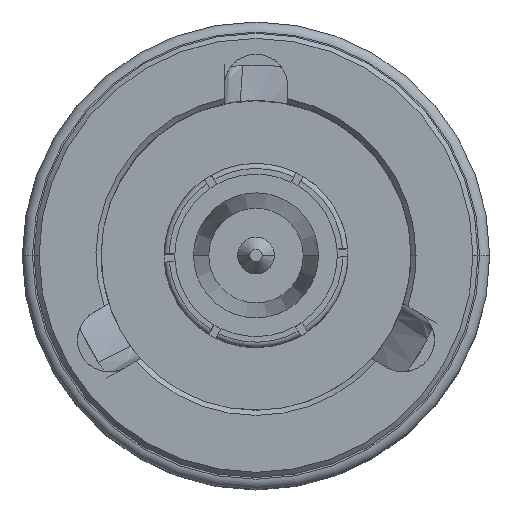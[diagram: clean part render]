
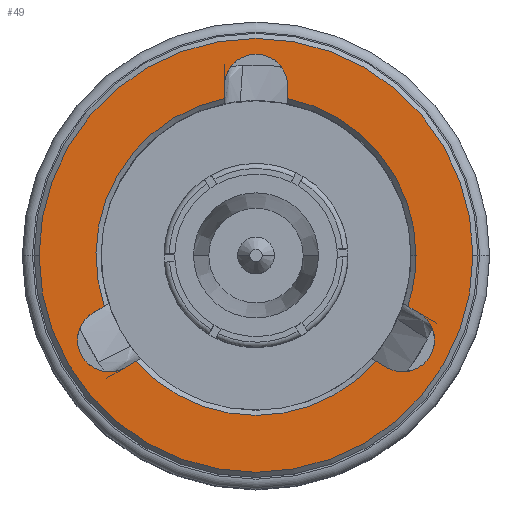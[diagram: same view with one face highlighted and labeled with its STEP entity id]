
A CAD part, top view. The second image highlights one B-rep face of the part: STEP entity #49.
In plain terms, the highlighted planar face has unit normal (0, 0, 1).
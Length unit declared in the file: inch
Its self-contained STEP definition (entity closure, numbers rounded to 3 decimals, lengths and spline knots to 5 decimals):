
#49 = ADVANCED_FACE ( 'NONE', ( #6090, #7867 ), #2099, .F. ) ;
#101 = LINE ( 'NONE', #2774, #6771 ) ;
#109 = CARTESIAN_POINT ( 'NONE',  ( -0.03125, 0.16675, 1.0415 ) ) ;
#136 = AXIS2_PLACEMENT_3D ( 'NONE', #6129, #2305, #6781 ) ;
#171 = DIRECTION ( 'NONE',  ( -1., 0., 0. ) ) ;
#264 = EDGE_CURVE ( 'NONE', #7971, #3932, #5994, .T. ) ;
#294 = CARTESIAN_POINT ( 'NONE',  ( -0.1412, -0.04544, 1.0415 ) ) ;
#315 = VERTEX_POINT ( 'NONE', #5618 ) ;
#316 = DIRECTION ( 'NONE',  ( 0., 0., -1. ) ) ;
#446 = CIRCLE ( 'NONE', #136, 0.2135 ) ;
#451 = VERTEX_POINT ( 'NONE', #7093 ) ;
#473 = LINE ( 'NONE', #2890, #3323 ) ;
#747 = ORIENTED_EDGE ( 'NONE', *, *, #2148, .F. ) ;
#761 = CARTESIAN_POINT ( 'NONE',  ( 0.03125, 0.15437, 1.0415 ) ) ;
#986 = EDGE_CURVE ( 'NONE', #3238, #1575, #4115, .T. ) ;
#1087 = CARTESIAN_POINT ( 'NONE',  ( 0.03125, 0.145, 1.0415 ) ) ;
#1135 = VERTEX_POINT ( 'NONE', #4020 ) ;
#1233 = VECTOR ( 'NONE', #4193, 39.37008 ) ;
#1354 = EDGE_CURVE ( 'NONE', #1135, #4613, #5380, .T. ) ;
#1370 = EDGE_CURVE ( 'NONE', #2640, #3066, #446, .T. ) ;
#1575 = VERTEX_POINT ( 'NONE', #7711 ) ;
#1615 = CARTESIAN_POINT ( 'NONE',  ( 0.14931, -0.05012, 1.0415 ) ) ;
#1645 = VERTEX_POINT ( 'NONE', #3984 ) ;
#1695 = EDGE_LOOP ( 'NONE', ( #6250, #7944 ) ) ;
#1710 = DIRECTION ( 'NONE',  ( 0., 1., 0. ) ) ;
#1782 = DIRECTION ( 'NONE',  ( 0., 0., -1. ) ) ;
#1841 = DIRECTION ( 'NONE',  ( 0., 0., 1. ) ) ;
#2099 = PLANE ( 'NONE',  #5335 ) ;
#2128 = AXIS2_PLACEMENT_3D ( 'NONE', #7499, #3614, #8157 ) ;
#2129 = ORIENTED_EDGE ( 'NONE', *, *, #264, .F. ) ;
#2146 = CIRCLE ( 'NONE', #2128, 0.1575 ) ;
#2148 = EDGE_CURVE ( 'NONE', #2600, #7773, #473, .T. ) ;
#2193 = CARTESIAN_POINT ( 'NONE',  ( 0.1412, -0.04544, 1.0415 ) ) ;
#2245 = DIRECTION ( 'NONE',  ( 0.866, 0.5, 0. ) ) ;
#2305 = DIRECTION ( 'NONE',  ( 0., 0., 1. ) ) ;
#2393 = CIRCLE ( 'NONE', #2452, 0.1575 ) ;
#2435 = CARTESIAN_POINT ( 'NONE',  ( -0.11806, -0.10425, 1.0415 ) ) ;
#2452 = AXIS2_PLACEMENT_3D ( 'NONE', #5630, #1782, #6277 ) ;
#2524 = VERTEX_POINT ( 'NONE', #2984 ) ;
#2553 = EDGE_LOOP ( 'NONE', ( #4811, #6567, #6902, #6382, #3969, #3734, #6213, #747, #3780, #4598, #5417, #7753, #5689, #2129 ) ) ;
#2600 = VERTEX_POINT ( 'NONE', #3517 ) ;
#2634 = CARTESIAN_POINT ( 'NONE',  ( 0.14441, -0.08337, 1.0415 ) ) ;
#2640 = VERTEX_POINT ( 'NONE', #5395 ) ;
#2774 = CARTESIAN_POINT ( 'NONE',  ( -0.03125, 0.145, 1.0415 ) ) ;
#2850 = DIRECTION ( 'NONE',  ( -0.866, 0.5, 0. ) ) ;
#2890 = CARTESIAN_POINT ( 'NONE',  ( -0.10995, -0.09956, 1.0415 ) ) ;
#2960 = LINE ( 'NONE', #294, #1233 ) ;
#2984 = CARTESIAN_POINT ( 'NONE',  ( -0.16003, -0.05631, 1.0415 ) ) ;
#3025 = DIRECTION ( 'NONE',  ( 0., 0., 1. ) ) ;
#3057 = CIRCLE ( 'NONE', #6773, 0.2135 ) ;
#3066 = VERTEX_POINT ( 'NONE', #4913 ) ;
#3073 = CARTESIAN_POINT ( 'NONE',  ( 0.17566, -0.08337, 1.0415 ) ) ;
#3094 = CARTESIAN_POINT ( 'NONE',  ( 0.14441, -0.08337, 1.0415 ) ) ;
#3210 = DIRECTION ( 'NONE',  ( 0., 0., -1. ) ) ;
#3238 = VERTEX_POINT ( 'NONE', #3073 ) ;
#3265 = DIRECTION ( 'NONE',  ( 0.5, 0.866, 0. ) ) ;
#3304 = AXIS2_PLACEMENT_3D ( 'NONE', #3094, #7617, #3747 ) ;
#3314 = CARTESIAN_POINT ( 'NONE',  ( 0., 0., 1.0415 ) ) ;
#3323 = VECTOR ( 'NONE', #2245, 39.37008 ) ;
#3410 = DIRECTION ( 'NONE',  ( 0., -1., 0. ) ) ;
#3517 = CARTESIAN_POINT ( 'NONE',  ( -0.12878, -0.11044, 1.0415 ) ) ;
#3614 = DIRECTION ( 'NONE',  ( 0., 0., -1. ) ) ;
#3734 = ORIENTED_EDGE ( 'NONE', *, *, #7227, .T. ) ;
#3747 = DIRECTION ( 'NONE',  ( 0.5, 0.866, 0. ) ) ;
#3780 = ORIENTED_EDGE ( 'NONE', *, *, #8312, .F. ) ;
#3858 = VECTOR ( 'NONE', #4461, 39.37008 ) ;
#3932 = VERTEX_POINT ( 'NONE', #4994 ) ;
#3964 = DIRECTION ( 'NONE',  ( -1., 0., 0. ) ) ;
#3969 = ORIENTED_EDGE ( 'NONE', *, *, #8273, .F. ) ;
#3984 = CARTESIAN_POINT ( 'NONE',  ( 0.12878, -0.11044, 1.0415 ) ) ;
#4020 = CARTESIAN_POINT ( 'NONE',  ( 0.1575, 0., 1.0415 ) ) ;
#4042 = LINE ( 'NONE', #7706, #3858 ) ;
#4070 = DIRECTION ( 'NONE',  ( 0., 0., -1. ) ) ;
#4115 = CIRCLE ( 'NONE', #6023, 0.03125 ) ;
#4152 = EDGE_CURVE ( 'NONE', #451, #2524, #2960, .T. ) ;
#4188 = EDGE_CURVE ( 'NONE', #451, #315, #2146, .T. ) ;
#4193 = DIRECTION ( 'NONE',  ( -0.866, -0.5, 0. ) ) ;
#4215 = CARTESIAN_POINT ( 'NONE',  ( 0., 0., 1.0415 ) ) ;
#4232 = VERTEX_POINT ( 'NONE', #6950 ) ;
#4309 = VECTOR ( 'NONE', #1710, 39.37008 ) ;
#4461 = DIRECTION ( 'NONE',  ( -0.866, 0.5, 0. ) ) ;
#4598 = ORIENTED_EDGE ( 'NONE', *, *, #4152, .F. ) ;
#4613 = VERTEX_POINT ( 'NONE', #1615 ) ;
#4628 = AXIS2_PLACEMENT_3D ( 'NONE', #6869, #3025, #7548 ) ;
#4664 = EDGE_CURVE ( 'NONE', #3932, #6103, #7474, .T. ) ;
#4792 = VECTOR ( 'NONE', #2850, 39.37008 ) ;
#4811 = ORIENTED_EDGE ( 'NONE', *, *, #6275, .T. ) ;
#4845 = DIRECTION ( 'NONE',  ( -1., 0., 0. ) ) ;
#4913 = CARTESIAN_POINT ( 'NONE',  ( -0.2135, 0., 1.0415 ) ) ;
#4994 = CARTESIAN_POINT ( 'NONE',  ( 0.03125, 0.16675, 1.0415 ) ) ;
#5335 = AXIS2_PLACEMENT_3D ( 'NONE', #7957, #4070, #171 ) ;
#5380 = CIRCLE ( 'NONE', #8128, 0.1575 ) ;
#5395 = CARTESIAN_POINT ( 'NONE',  ( 0.2135, 0., 1.0415 ) ) ;
#5417 = ORIENTED_EDGE ( 'NONE', *, *, #4188, .T. ) ;
#5618 = CARTESIAN_POINT ( 'NONE',  ( -0.03125, 0.15437, 1.0415 ) ) ;
#5630 = CARTESIAN_POINT ( 'NONE',  ( 0., 0., 1.0415 ) ) ;
#5684 = CARTESIAN_POINT ( 'NONE',  ( -0.14441, -0.08338, 1.0415 ) ) ;
#5689 = ORIENTED_EDGE ( 'NONE', *, *, #4664, .F. ) ;
#5792 = CIRCLE ( 'NONE', #3304, 0.03125 ) ;
#5869 = AXIS2_PLACEMENT_3D ( 'NONE', #5684, #1841, #6330 ) ;
#5994 = LINE ( 'NONE', #1087, #4309 ) ;
#6023 = AXIS2_PLACEMENT_3D ( 'NONE', #2634, #7134, #3265 ) ;
#6090 = FACE_OUTER_BOUND ( 'NONE', #1695, .T. ) ;
#6103 = VERTEX_POINT ( 'NONE', #109 ) ;
#6129 = CARTESIAN_POINT ( 'NONE',  ( 0., 0., 1.0415 ) ) ;
#6213 = ORIENTED_EDGE ( 'NONE', *, *, #8269, .T. ) ;
#6250 = ORIENTED_EDGE ( 'NONE', *, *, #6812, .T. ) ;
#6275 = EDGE_CURVE ( 'NONE', #7971, #1135, #7208, .T. ) ;
#6277 = DIRECTION ( 'NONE',  ( -1., 0., 0. ) ) ;
#6330 = DIRECTION ( 'NONE',  ( 0.5, -0.866, 0. ) ) ;
#6366 = EDGE_CURVE ( 'NONE', #6103, #315, #101, .T. ) ;
#6382 = ORIENTED_EDGE ( 'NONE', *, *, #986, .F. ) ;
#6490 = LINE ( 'NONE', #2193, #4792 ) ;
#6567 = ORIENTED_EDGE ( 'NONE', *, *, #1354, .T. ) ;
#6771 = VECTOR ( 'NONE', #3410, 39.37008 ) ;
#6773 = AXIS2_PLACEMENT_3D ( 'NONE', #3314, #7857, #3964 ) ;
#6781 = DIRECTION ( 'NONE',  ( -1., 0., 0. ) ) ;
#6812 = EDGE_CURVE ( 'NONE', #3066, #2640, #3057, .T. ) ;
#6869 = CARTESIAN_POINT ( 'NONE',  ( 0., 0.16675, 1.0415 ) ) ;
#6902 = ORIENTED_EDGE ( 'NONE', *, *, #8088, .F. ) ;
#6950 = CARTESIAN_POINT ( 'NONE',  ( 0.11806, -0.10425, 1.0415 ) ) ;
#7082 = CARTESIAN_POINT ( 'NONE',  ( 0., 0., 1.0415 ) ) ;
#7093 = CARTESIAN_POINT ( 'NONE',  ( -0.14931, -0.05012, 1.0415 ) ) ;
#7134 = DIRECTION ( 'NONE',  ( 0., 0., 1. ) ) ;
#7208 = CIRCLE ( 'NONE', #8172, 0.1575 ) ;
#7227 = EDGE_CURVE ( 'NONE', #1645, #4232, #4042, .T. ) ;
#7474 = CIRCLE ( 'NONE', #4628, 0.03125 ) ;
#7499 = CARTESIAN_POINT ( 'NONE',  ( 0., 0., 1.0415 ) ) ;
#7548 = DIRECTION ( 'NONE',  ( -1., 0., 0. ) ) ;
#7617 = DIRECTION ( 'NONE',  ( 0., 0., 1. ) ) ;
#7706 = CARTESIAN_POINT ( 'NONE',  ( -0.11024, 0.02756, 1.0415 ) ) ;
#7711 = CARTESIAN_POINT ( 'NONE',  ( 0.16003, -0.05631, 1.0415 ) ) ;
#7751 = DIRECTION ( 'NONE',  ( -1., 0., 0. ) ) ;
#7753 = ORIENTED_EDGE ( 'NONE', *, *, #6366, .F. ) ;
#7773 = VERTEX_POINT ( 'NONE', #2435 ) ;
#7857 = DIRECTION ( 'NONE',  ( 0., 0., 1. ) ) ;
#7867 = FACE_BOUND ( 'NONE', #2553, .T. ) ;
#7944 = ORIENTED_EDGE ( 'NONE', *, *, #1370, .T. ) ;
#7957 = CARTESIAN_POINT ( 'NONE',  ( 0., 0.2185, 1.0415 ) ) ;
#7971 = VERTEX_POINT ( 'NONE', #761 ) ;
#8088 = EDGE_CURVE ( 'NONE', #1575, #4613, #6490, .T. ) ;
#8128 = AXIS2_PLACEMENT_3D ( 'NONE', #4215, #316, #4845 ) ;
#8157 = DIRECTION ( 'NONE',  ( -1., 0., 0. ) ) ;
#8172 = AXIS2_PLACEMENT_3D ( 'NONE', #7082, #3210, #7751 ) ;
#8268 = CIRCLE ( 'NONE', #5869, 0.03125 ) ;
#8269 = EDGE_CURVE ( 'NONE', #4232, #7773, #2393, .T. ) ;
#8273 = EDGE_CURVE ( 'NONE', #1645, #3238, #5792, .T. ) ;
#8312 = EDGE_CURVE ( 'NONE', #2524, #2600, #8268, .T. ) ;
